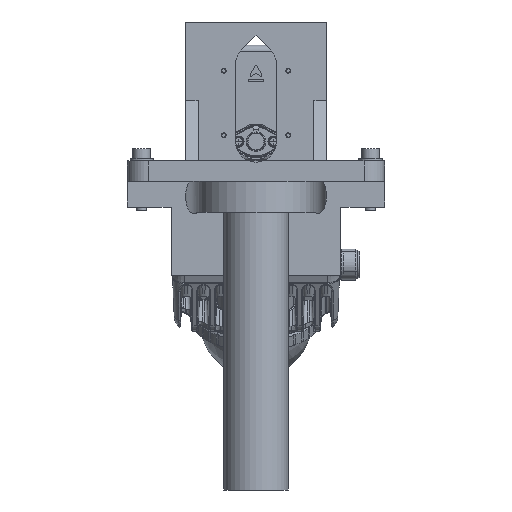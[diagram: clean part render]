
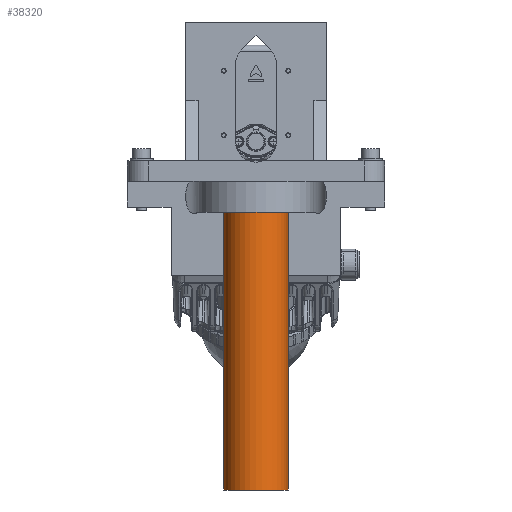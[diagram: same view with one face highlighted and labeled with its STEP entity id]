
A CAD part, left-side view. The second image highlights one B-rep face of the part: STEP entity #38320.
In plain terms, the highlighted cylindrical face has radius 12.5 mm (diameter 25 mm), a full revolution.
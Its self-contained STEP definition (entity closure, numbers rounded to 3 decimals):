
#38320 = ADVANCED_FACE('',(#38321),#38348,.T.);
#38321 = FACE_BOUND('',#38322,.T.);
#38322 = EDGE_LOOP('',(#38323,#38332,#38340,#38347));
#38323 = ORIENTED_EDGE('',*,*,#38324,.F.);
#38324 = EDGE_CURVE('',#38325,#38325,#38327,.T.);
#38325 = VERTEX_POINT('',#38326);
#38326 = CARTESIAN_POINT('',(-72.5,0.,0.));
#38327 = CIRCLE('',#38328,12.5);
#38328 = AXIS2_PLACEMENT_3D('',#38329,#38330,#38331);
#38329 = CARTESIAN_POINT('',(-85.,0.,0.));
#38330 = DIRECTION('',(0.,0.,1.));
#38331 = DIRECTION('',(1.,0.,0.));
#38332 = ORIENTED_EDGE('',*,*,#38333,.F.);
#38333 = EDGE_CURVE('',#38334,#38325,#38336,.T.);
#38334 = VERTEX_POINT('',#38335);
#38335 = CARTESIAN_POINT('',(-72.5,0.,-120.));
#38336 = LINE('',#38337,#38338);
#38337 = CARTESIAN_POINT('',(-72.5,0.,-120.));
#38338 = VECTOR('',#38339,1.);
#38339 = DIRECTION('',(0.,0.,1.));
#38340 = ORIENTED_EDGE('',*,*,#38341,.T.);
#38341 = EDGE_CURVE('',#38334,#38334,#38342,.T.);
#38342 = CIRCLE('',#38343,12.5);
#38343 = AXIS2_PLACEMENT_3D('',#38344,#38345,#38346);
#38344 = CARTESIAN_POINT('',(-85.,0.,-120.));
#38345 = DIRECTION('',(0.,0.,1.));
#38346 = DIRECTION('',(1.,0.,0.));
#38347 = ORIENTED_EDGE('',*,*,#38333,.T.);
#38348 = CYLINDRICAL_SURFACE('',#38349,12.5);
#38349 = AXIS2_PLACEMENT_3D('',#38350,#38351,#38352);
#38350 = CARTESIAN_POINT('',(-85.,0.,-120.));
#38351 = DIRECTION('',(0.,0.,1.));
#38352 = DIRECTION('',(1.,0.,0.));
